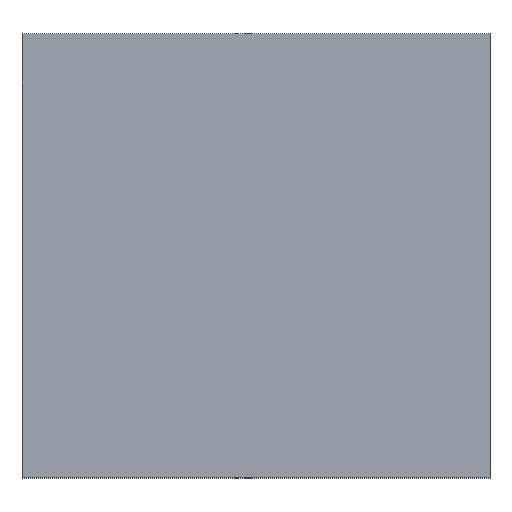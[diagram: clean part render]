
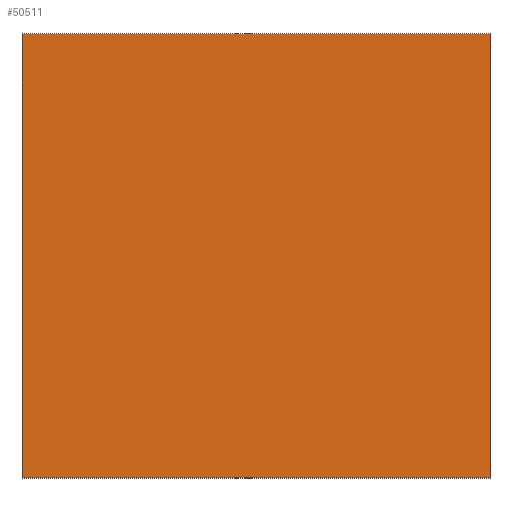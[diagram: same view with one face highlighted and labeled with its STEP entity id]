
A CAD part, top view. The second image highlights one B-rep face of the part: STEP entity #50511.
In plain terms, the highlighted planar face has unit normal (0, 0, 1).
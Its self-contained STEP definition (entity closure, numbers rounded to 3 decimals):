
#3749=FACE_OUTER_BOUND('',#7124,.T.);
#7124=EDGE_LOOP('',(#45902,#45903,#45904,#45905));
#13904=LINE('',#78716,#20691);
#13908=LINE('',#78725,#20695);
#13911=LINE('',#78729,#20698);
#13912=LINE('',#78731,#20699);
#20691=VECTOR('',#64867,10.);
#20695=VECTOR('',#64873,10.);
#20698=VECTOR('',#64878,10.);
#20699=VECTOR('',#64881,10.);
#25271=VERTEX_POINT('',#78713);
#25272=VERTEX_POINT('',#78715);
#25275=VERTEX_POINT('',#78722);
#25276=VERTEX_POINT('',#78724);
#32146=EDGE_CURVE('',#25271,#25272,#13904,.T.);
#32150=EDGE_CURVE('',#25275,#25276,#13908,.T.);
#32153=EDGE_CURVE('',#25275,#25272,#13911,.T.);
#32154=EDGE_CURVE('',#25276,#25271,#13912,.T.);
#45902=ORIENTED_EDGE('',*,*,#32153,.T.);
#45903=ORIENTED_EDGE('',*,*,#32146,.F.);
#45904=ORIENTED_EDGE('',*,*,#32154,.F.);
#45905=ORIENTED_EDGE('',*,*,#32150,.F.);
#48188=PLANE('',#53151);
#50511=ADVANCED_FACE('',(#3749),#48188,.T.);
#53151=AXIS2_PLACEMENT_3D('',#78730,#64879,#64880);
#64867=DIRECTION('',(0.,-1.,0.));
#64873=DIRECTION('',(0.,1.,0.));
#64878=DIRECTION('',(1.,0.,0.));
#64879=DIRECTION('center_axis',(0.,0.,1.));
#64880=DIRECTION('ref_axis',(0.,-1.,0.));
#64881=DIRECTION('',(1.,0.,0.));
#78713=CARTESIAN_POINT('',(3400.,3030.,3000.));
#78715=CARTESIAN_POINT('',(3400.,-3030.,3000.));
#78716=CARTESIAN_POINT('',(3400.,-3030.,3000.));
#78722=CARTESIAN_POINT('',(-3000.,-3030.,3000.));
#78724=CARTESIAN_POINT('',(-3000.,3030.,3000.));
#78725=CARTESIAN_POINT('',(-3000.,-3030.,3000.));
#78729=CARTESIAN_POINT('',(0.,-3030.,3000.));
#78730=CARTESIAN_POINT('Origin',(0.,3030.,3000.));
#78731=CARTESIAN_POINT('',(0.,3030.,3000.));
